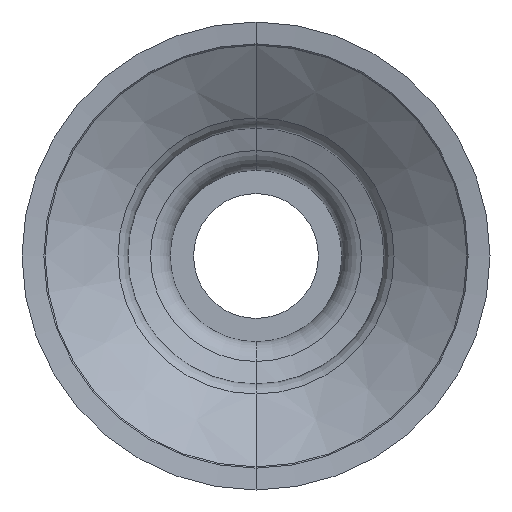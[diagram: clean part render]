
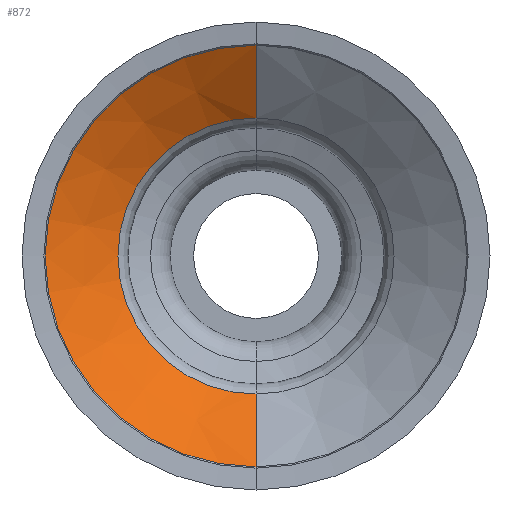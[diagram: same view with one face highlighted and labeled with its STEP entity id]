
A CAD part, front view. The second image highlights one B-rep face of the part: STEP entity #872.
In plain terms, the highlighted conical face has half-angle 55.44 degrees and reference radius 13.514 mm.
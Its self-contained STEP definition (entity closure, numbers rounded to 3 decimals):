
#2 = DIRECTION ( 'NONE',  ( 0., 1., 0. ) ) ;
#25 = VERTEX_POINT ( 'NONE', #264 ) ;
#48 = DIRECTION ( 'NONE',  ( 0., -0.567, -0.824 ) ) ;
#73 = VECTOR ( 'NONE', #350, 1000. ) ;
#78 = VERTEX_POINT ( 'NONE', #139 ) ;
#110 = ORIENTED_EDGE ( 'NONE', *, *, #498, .F. ) ;
#139 = CARTESIAN_POINT ( 'NONE',  ( 0., -22.448, 13.513 ) ) ;
#179 = AXIS2_PLACEMENT_3D ( 'NONE', #1105, #527, #421 ) ;
#192 = CARTESIAN_POINT ( 'NONE',  ( 0., -19.235, 0. ) ) ;
#247 = AXIS2_PLACEMENT_3D ( 'NONE', #192, #405, #886 ) ;
#264 = CARTESIAN_POINT ( 'NONE',  ( 0., -22.448, -13.513 ) ) ;
#318 = DIRECTION ( 'NONE',  ( 0., 0., 1. ) ) ;
#324 = FACE_OUTER_BOUND ( 'NONE', #539, .T. ) ;
#350 = DIRECTION ( 'NONE',  ( 0., -0.567, 0.824 ) ) ;
#355 = CARTESIAN_POINT ( 'NONE',  ( 0., -19.235, 8.849 ) ) ;
#405 = DIRECTION ( 'NONE',  ( 0., 1., 0. ) ) ;
#421 = DIRECTION ( 'NONE',  ( 0., 0., -1. ) ) ;
#489 = CIRCLE ( 'NONE', #1168, 13.513 ) ;
#498 = EDGE_CURVE ( 'NONE', #1050, #25, #1134, .T. ) ;
#508 = VERTEX_POINT ( 'NONE', #355 ) ;
#527 = DIRECTION ( 'NONE',  ( 0., -1., 0. ) ) ;
#539 = EDGE_LOOP ( 'NONE', ( #846, #1209, #700, #110 ) ) ;
#560 = EDGE_CURVE ( 'NONE', #508, #78, #1161, .T. ) ;
#637 = CARTESIAN_POINT ( 'NONE',  ( 0., -19.235, -8.849 ) ) ;
#680 = CIRCLE ( 'NONE', #247, 8.849 ) ;
#700 = ORIENTED_EDGE ( 'NONE', *, *, #801, .F. ) ;
#728 = EDGE_CURVE ( 'NONE', #1050, #508, #680, .T. ) ;
#801 = EDGE_CURVE ( 'NONE', #25, #78, #489, .T. ) ;
#846 = ORIENTED_EDGE ( 'NONE', *, *, #728, .T. ) ;
#872 = ADVANCED_FACE ( 'NONE', ( #324 ), #1028, .F. ) ;
#886 = DIRECTION ( 'NONE',  ( 0., 0., 1. ) ) ;
#940 = CARTESIAN_POINT ( 'NONE',  ( 0., -22.448, 13.513 ) ) ;
#1009 = CARTESIAN_POINT ( 'NONE',  ( 0., -22.448, 0. ) ) ;
#1028 = CONICAL_SURFACE ( 'NONE', #179, 13.513, 0.968 ) ;
#1050 = VERTEX_POINT ( 'NONE', #637 ) ;
#1105 = CARTESIAN_POINT ( 'NONE',  ( 0., -22.448, 0. ) ) ;
#1124 = CARTESIAN_POINT ( 'NONE',  ( 0., -22.448, -13.513 ) ) ;
#1134 = LINE ( 'NONE', #1124, #1147 ) ;
#1147 = VECTOR ( 'NONE', #48, 1000. ) ;
#1161 = LINE ( 'NONE', #940, #73 ) ;
#1168 = AXIS2_PLACEMENT_3D ( 'NONE', #1009, #2, #318 ) ;
#1209 = ORIENTED_EDGE ( 'NONE', *, *, #560, .T. ) ;
